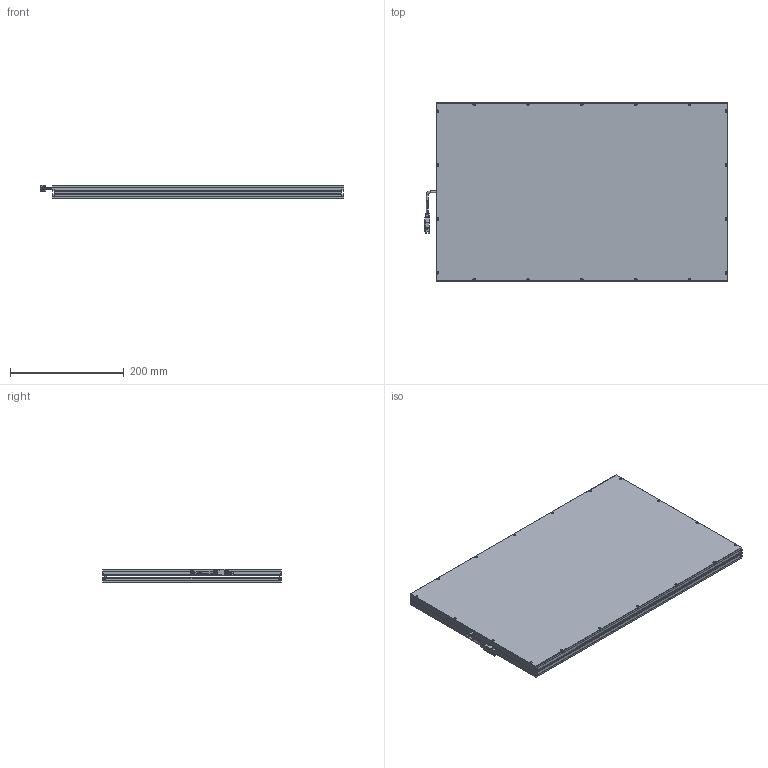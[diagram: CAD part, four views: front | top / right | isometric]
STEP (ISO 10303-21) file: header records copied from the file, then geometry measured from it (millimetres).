
FILE_DESCRIPTION (( 'STEP AP203' ), '1' );
FILE_NAME ('CRT-2FLD500300-¼òÒ×3DÍ¼.STEP', '2021-11-24T01:15:14', ( 'Admin' ), ( '' ), 'SwSTEP 2.0', 'SolidWorks 2018', '' );
FILE_SCHEMA (( 'CONFIG_CONTROL_DESIGN' ));
Length unit declared in the file: millimetre
Products named in the file (1): CRT-2FLD500300-潠眢3D芞
Bounding box: 534.95 x 314 x 23.5 mm (x, y, z)
Surface area: 535959.6 mm2 (no closed solid volume)
Topology: 0 solids, 11 shells, 332 faces, 1127 edges, 773 vertices
Faces by surface type: plane 151, cylinder 130, cone 46, bspline 4, torus 1
Entity records: 12608 total; most frequent: CARTESIAN_POINT 2805, DIRECTION 2078, ORIENTED_EDGE 1767, EDGE_CURVE 1127, VERTEX_POINT 773, VECTOR 706, LINE 706, AXIS2_PLACEMENT_3D 686
